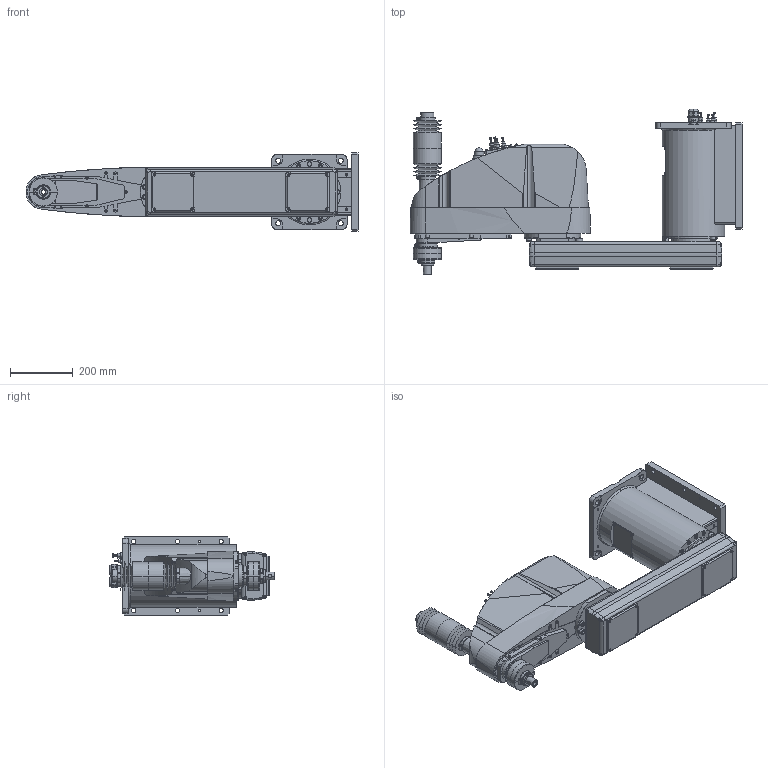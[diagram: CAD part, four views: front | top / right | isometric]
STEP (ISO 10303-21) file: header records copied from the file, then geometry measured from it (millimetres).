
FILE_DESCRIPTION( ( '' ), '1' );
FILE_NAME( '//expscmdclustefs.cadenas.external/client_exchange/iodir/jobs/output/wkb51507287_no0/STEP/G20_851PW_2_14b.stp', '2012-11-22T13:55:34', ( '' ), ( '' ), ' ', ' ', ' ' );
FILE_SCHEMA( ( 'automotive_design' ) );
Length unit declared in the file: millimetre
Products named in the file (8): 1; 2; 3; 4; 5; 6; 7; 8
Bounding box: 1060.5 x 528 x 250 mm (x, y, z)
Volume: 43291862.2 mm3; surface area: 1716341.4 mm2
Topology: 8 solids, 8 shells, 2143 faces, 5150 edges, 3308 vertices
Faces by surface type: plane 1091, cylinder 732, cone 292, torus 27, sphere 1
Entity records: 123576 total; most frequent: CARTESIAN_POINT 12702, DIRECTION 11122, STYLED_ITEM 10593, PRESENTATION_STYLE_ASSIGNMENT 10593, COLOUR_RGB 10593, ORIENTED_EDGE 10268, EDGE_CURVE 5134, CURVE_STYLE 5134
